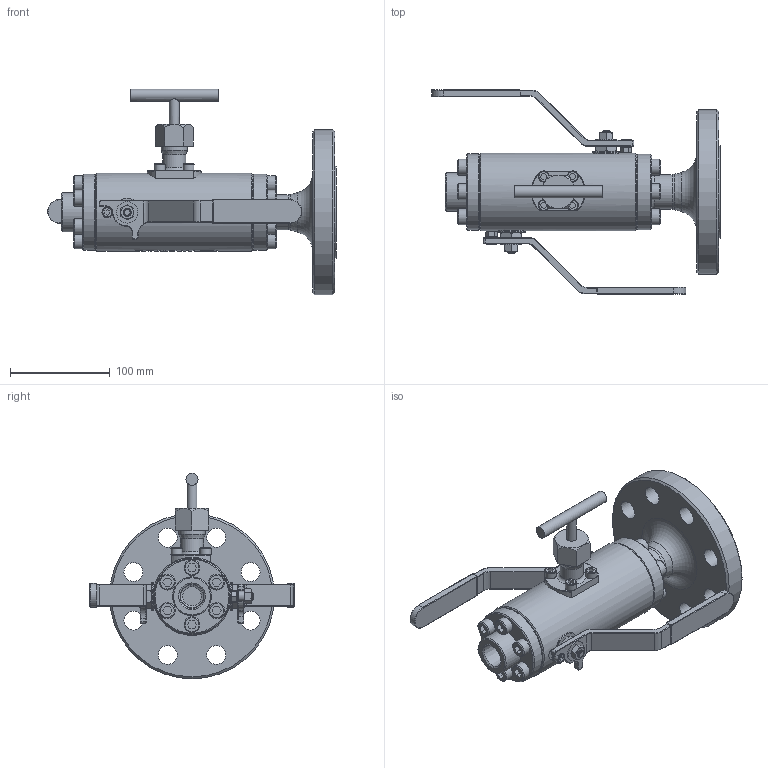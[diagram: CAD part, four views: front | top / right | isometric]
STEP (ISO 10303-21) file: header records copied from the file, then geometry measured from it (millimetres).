
FILE_DESCRIPTION(/* description */ (''),/* implementation_level */ '2;1');
FILE_NAME(/* name */ 'C:\Users\pc\Desktop\TFED-¾-300-PT-2RFxNPTH-PALANCA.stp',/* time_stamp */ '2022-09-10T16:41:52-03:00',/* author */ ('pc'),/* organization */ (''),/* preprocessor_version */ 'ST-DEVELOPER v18',/* originating_system */ 'Autodesk Inventor 2020',/* authorisation */ '');
FILE_SCHEMA (('AUTOMOTIVE_DESIGN { 1 0 10303 214 3 1 1 }'));
Length unit declared in the file: millimetre
Products named in the file (2): TFED-¾-300-PT-2RFxNPTH-PALANCA; TFED-¾-300-PT-2RFxNPTH-PALANCA_1
Assembly tree (1 placements, depth 2):
  TFED-¾-300-PT-2RFxNPTH-PALANCA
    TFED-¾-300-PT-2RFxNPTH-PALANCA_1
Bounding box: 289.04 x 204.29 x 205.75 mm (x, y, z)
Volume: 1468610 mm3; surface area: 192935.8 mm2
Topology: 1 solids, 25 shells, 945 faces, 2596 edges, 1705 vertices
Faces by surface type: plane 367, cone 285, cylinder 215, torus 46, bspline 30, sphere 2
Full cylindrical faces by diameter (mm): 2.668 x1, 5.968 x4, 7.04 x4, 7.878 x24, 7.957 x2, 9.823 x1, 9.947 x2, 11.264 x4, 12.157 x1, 12.891 x2, 16 x12, 18 x1, 19 x9, 21.485 x2, 23.1 x1, 26.4 x1, 35 x1, 39 x1, 75.962 x1, 76.059 x1, 78 x1, 92.1 x1, 165.1 x1
Entity records: 35743 total; most frequent: CARTESIAN_POINT 11929, ORIENTED_EDGE 5188, DIRECTION 4860, EDGE_CURVE 2594, AXIS2_PLACEMENT_3D 1868, VERTEX_POINT 1705, LINE 1124, VECTOR 1124
